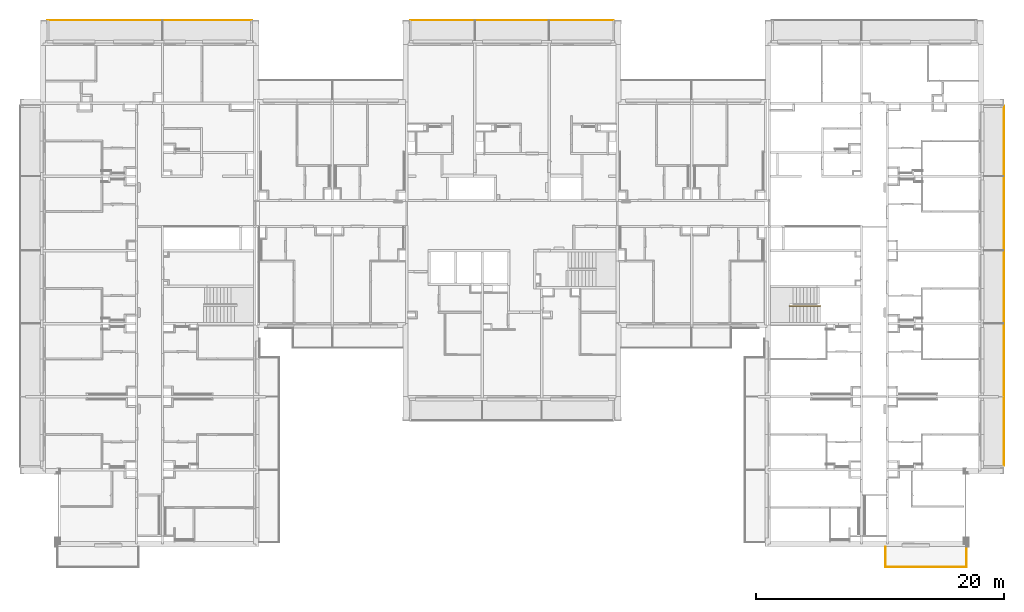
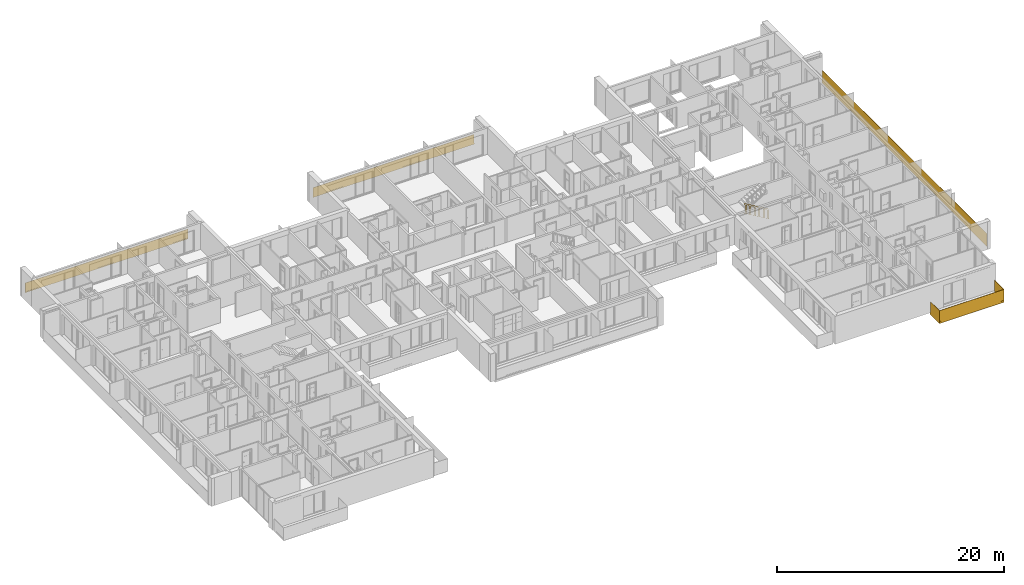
# One storey, part 8 of 66: 5 railings.
"""IFC2X3 building model written with IfcOpenShell, lengths in millimetres."""

from ifc_helpers import new_model, entity, si_unit, converted_unit, derived_unit, money_unit, direction, frame, origin_with_axes, place, context, subcontext, project, spatial, faceted_brep, material, material_list, type_object, element, save


model = new_model("IFC2X3")

# Units and contexts
model_context = context("Model", 3, precision=0.01, world=origin_with_axes(), true_north=direction((0.34421633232, 0.938890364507)))
body_context = subcontext(model_context, "Body", "Model", "MODEL_VIEW")
ifc_project = project(units=[si_unit("LENGTHUNIT", "METRE", prefix="MILLI"), si_unit("AREAUNIT", "SQUARE_METRE"), si_unit("VOLUMEUNIT", "CUBIC_METRE"), converted_unit("PLANEANGLEUNIT", "DEGREE", entity("IfcPlaneAngleMeasure", 0.0174532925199), si_unit("PLANEANGLEUNIT", "RADIAN"), dimensions=[0, 0, 0, 0, 0, 0, 0]), si_unit("SOLIDANGLEUNIT", "STERADIAN"), money_unit("USD"), converted_unit("TIMEUNIT", "Year", entity("IfcTimeMeasure", 31556926.0), si_unit("TIMEUNIT", "SECOND"), dimensions=[0, 0, 1, 0, 0, 0, 0]), si_unit("MASSUNIT", "GRAM", prefix="KILO"), si_unit("THERMODYNAMICTEMPERATUREUNIT", "DEGREE_CELSIUS"), si_unit("LUMINOUSINTENSITYUNIT", "LUMEN"), si_unit("ENERGYUNIT", "JOULE", prefix="MEGA"), derived_unit("THERMALCONDUCTANCEUNIT", [(si_unit("POWERUNIT", "WATT"), 1), (si_unit("LENGTHUNIT", "METRE"), -1), (si_unit("THERMODYNAMICTEMPERATUREUNIT", "KELVIN"), -1)]), derived_unit("SPECIFICHEATCAPACITYUNIT", [(si_unit("ENERGYUNIT", "JOULE"), 1), (si_unit("MASSUNIT", "GRAM", prefix="KILO"), -1), (si_unit("THERMODYNAMICTEMPERATUREUNIT", "KELVIN"), -1)]), derived_unit("MASSDENSITYUNIT", [(si_unit("MASSUNIT", "GRAM", prefix="KILO"), 1), (si_unit("VOLUMEUNIT", "CUBIC_METRE"), -1)])], contexts=[model_context])

# Site, building, storey
site_placement = place(None, origin_with_axes())
site = spatial("IfcSite", under=ifc_project, at=site_placement, Name="USTRONIE MORSKIE", CompositionType="ELEMENT")
building_placement = place(site_placement, origin_with_axes())
building = spatial("IfcBuilding", under=site, at=building_placement, Name="Budynek", CompositionType="ELEMENT")
storey_placement = place(building_placement, frame((0.0, 0.0, 10000.0), z_axis=(0.0, 0.0, 1.0), x_axis=(1.0, 0.0, 0.0)))
storey = spatial("IfcBuildingStorey", under=building, at=storey_placement, Name="PIĘTRO 3", CompositionType="ELEMENT", Elevation=10000.0)

# Railings
ifc_material_1 = material(Name="Szkło struktualne")
ifc_material_2 = material(Name="Profile aluminiowe")
ifc_material_list_1 = material_list([ifc_material_1, ifc_material_2])
railing_type = type_object("IfcRailingType", Name="Typ balustrady", PredefinedType="NOTDEFINED")
railing_1_placement = place(storey_placement, frame((425717.920919, 745301.199036, -200.0), z_axis=(0.0, 0.0, 1.0), x_axis=(1.0, 0.0, 0.0)))
element("IfcRailing", 1, at=railing_1_placement, inside=storey, type_object=railing_type, material=ifc_material_list_1, Name="BL1", PredefinedType="NOTDEFINED", context=body_context, shape_type="Brep", body=[
    faceted_brep([(1810.0, -29870.0, -100.0), (1810.0, -820.0, -100.0), (1810.0, -820.0, 1250.0), (1810.0, -29870.0, 1250.0), (1790.0, -820.0, -100.0), (1790.0, -29870.0, -100.0), (1790.0, -820.0, 1250.0), (1790.0, -29870.0, 1250.0)], [[[0, 1, 2, 3]], [[4, 1, 0, 5]], [[6, 2, 1, 4]], [[3, 2, 6, 7]], [[0, 3, 7, 5]], [[6, 4, 5, 7]]]),
    faceted_brep([(1785.0, -29870.0, -5.0), (1785.0, -820.0, -5.0), (1785.0, -820.0, -105.0), (1785.0, -29870.0, -105.0), (1790.0, -29870.0, -5.0), (1790.0, -820.0, -5.0), (1790.0, -820.0, -100.0), (1810.0, -820.0, -100.0), (1810.0, -820.0, -5.0), (1815.0, -820.0, -5.0), (1815.0, -820.0, -105.0), (1815.0, -29870.0, -105.0), (1815.0, -29870.0, -5.0), (1810.0, -29870.0, -5.0), (1810.0, -29870.0, -100.0), (1790.0, -29870.0, -100.0)], [[[0, 1, 2, 3]], [[1, 0, 4, 5]], [[6, 7, 8, 9, 10, 2, 1, 5]], [[10, 11, 3, 2]], [[11, 12, 13, 14, 15, 4, 0, 3]], [[15, 6, 5, 4]], [[7, 6, 15, 14]], [[8, 7, 14, 13]], [[9, 8, 13, 12]], [[11, 10, 9, 12]]]),
])
railing_2_placement = place(storey_placement, frame((366747.920919, 751396.199036, 30.0), z_axis=(0.0, 0.0, 1.0), x_axis=(-1.0, 0.0, 0.0)))
element("IfcRailing", 2, at=railing_2_placement, inside=storey, type_object=railing_type, material=ifc_material_list_1, Name="BL1", PredefinedType="NOTDEFINED", context=body_context, shape_type="Brep", body=[
    faceted_brep([(16460.0, 9.99999999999, -100.0), (-100.0, 9.99999999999, -100.0), (-100.0, 9.99999999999, 950.0), (16460.0, 9.99999999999, 950.0), (-100.0, -9.99999999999, -100.0), (16460.0, -9.99999999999, -100.0), (-100.0, -9.99999999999, 950.0), (16460.0, -9.99999999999, 950.0)], [[[0, 1, 2, 3]], [[4, 1, 0, 5]], [[6, 2, 1, 4]], [[3, 2, 6, 7]], [[0, 3, 7, 5]], [[6, 4, 5, 7]]]),
    faceted_brep([(16460.0, -15.0, -5.0), (-100.0, -15.0, -5.0), (-100.0, -15.0, -105.0), (16460.0, -15.0, -105.0), (16460.0, -9.99999999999, -5.0), (-100.0, -9.99999999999, -5.0), (-100.0, -9.99999999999, -100.0), (-100.0, 9.99999999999, -100.0), (-100.0, 9.99999999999, -5.0), (-100.0, 15.0, -5.0), (-100.0, 15.0, -105.0), (16460.0, 15.0, -105.0), (16460.0, 15.0, -5.0), (16460.0, 9.99999999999, -5.0), (16460.0, 9.99999999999, -100.0), (16460.0, -9.99999999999, -100.0)], [[[0, 1, 2, 3]], [[1, 0, 4, 5]], [[6, 7, 8, 9, 10, 2, 1, 5]], [[10, 11, 3, 2]], [[11, 12, 13, 14, 15, 4, 0, 3]], [[15, 6, 5, 4]], [[7, 6, 15, 14]], [[8, 7, 14, 13]], [[9, 8, 13, 12]], [[11, 10, 9, 12]]]),
])
railing_3_placement = place(storey_placement, frame((379232.916848, 749626.184759, 30.0), z_axis=(0.0, 0.0, 1.0), x_axis=(1.0, 0.0, 0.0)))
element("IfcRailing", 3, at=railing_3_placement, inside=storey, type_object=railing_type, material=ifc_material_list_1, Name="BL1", PredefinedType="NOTDEFINED", context=body_context, shape_type="Brep", body=[
    faceted_brep([(16800.0006065, 1780.0, -100.0), (370.001001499, 1779.86177895, -100.0), (370.001001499, 1779.86177895, 950.0), (16800.0006065, 1780.0, 950.0), (370.001169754, 1759.86177895, -100.0), (16800.0007747, 1760.0, -100.0), (370.001169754, 1759.86177895, 950.0), (16800.0007747, 1760.0, 950.0)], [[[0, 1, 2, 3]], [[4, 1, 0, 5]], [[6, 2, 1, 4]], [[3, 2, 6, 7]], [[0, 3, 7, 5]], [[6, 4, 5, 7]]]),
    faceted_brep([(16800.0008168, 1755.0, -5.0), (370.001211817, 1754.86177895, -5.0), (370.001211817, 1754.86177895, -105.0), (16800.0008168, 1755.0, -105.0), (16800.0007747, 1760.0, -5.0), (370.001169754, 1759.86177895, -5.0), (370.001169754, 1759.86177895, -100.0), (370.001001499, 1779.86177895, -100.0), (370.001001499, 1779.86177895, -5.0), (370.000959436, 1784.86177895, -5.0), (370.000959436, 1784.86177895, -105.0), (16800.0005644, 1785.0, -105.0), (16800.0005644, 1785.0, -5.0), (16800.0006065, 1780.0, -5.0), (16800.0006065, 1780.0, -100.0), (16800.0007747, 1760.0, -100.0)], [[[0, 1, 2, 3]], [[1, 0, 4, 5]], [[6, 7, 8, 9, 10, 2, 1, 5]], [[10, 11, 3, 2]], [[11, 12, 13, 14, 15, 4, 0, 3]], [[15, 6, 5, 4]], [[7, 6, 15, 14]], [[8, 7, 14, 13]], [[9, 8, 13, 12]], [[11, 10, 9, 12]]]),
])
ifc_material_list_2 = material_list([ifc_material_1, ifc_material_2, ifc_material_1, ifc_material_2, ifc_material_1, ifc_material_2])
railing_4_placement = place(storey_placement, frame((418017.920919, 708891.199036, 0.0), z_axis=(0.0, 0.0, 1.0), x_axis=(-1.0, 0.0, 0.0)))
element("IfcRailing", 4, at=railing_4_placement, inside=storey, type_object=railing_type, material=ifc_material_list_2, Name="BL1", PredefinedType="NOTDEFINED", context=body_context, shape_type="Brep", body=[
    faceted_brep([(40.0000002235, 19.9999996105, -300.00000039), (40.0000002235, 19.9999996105, 1069.99999972), (40.0000002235, 1629.99999995, 1069.99999972), (40.0000002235, 1629.99999995, -300.00000039), (59.9999997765, 19.9999996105, 1069.99999972), (59.9999997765, 19.9999996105, -300.00000039), (59.9999997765, 1649.9999995, 1069.99999972), (59.9999997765, 1649.9999995, -300.00000039)], [[[0, 1, 2, 3]], [[4, 1, 0, 5]], [[2, 1, 4, 6]], [[3, 2, 6, 7]], [[5, 0, 3, 7]], [[6, 4, 5, 7]]]),
    faceted_brep([(65.0, 1640.0, -105.0), (65.0, 20.0, -105.0), (65.0, 20.0, -305.0), (65.0, 1640.0, -305.0), (60.0, 1640.0, -105.0), (60.0, 20.0, -105.0), (60.0, 20.0, -300.0), (40.0, 20.0, -300.0), (40.0, 20.0, -105.0), (35.0, 20.0, -105.0), (35.0, 20.0, -305.0), (35.0, 1640.0, -305.0), (35.0, 1640.0, -105.0), (40.0, 1640.0, -105.0), (40.0, 1640.0, -300.0), (60.0, 1640.0, -300.0)], [[[0, 1, 2, 3]], [[1, 0, 4, 5]], [[6, 7, 8, 9, 10, 2, 1, 5]], [[10, 11, 3, 2]], [[11, 12, 13, 14, 15, 4, 0, 3]], [[15, 6, 5, 4]], [[7, 6, 15, 14]], [[8, 7, 14, 13]], [[9, 8, 13, 12]], [[11, 10, 9, 12]]]),
    faceted_brep([(40.000000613, 1630.00000022, -300.00000039), (40.000000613, 1630.00000022, 1069.99999972), (-6490.00000058, 1630.00000022, 1069.99999972), (-6490.00000058, 1630.00000022, -300.00000039), (60.000000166, 1649.99999978, 1069.99999972), (60.000000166, 1649.99999978, -300.00000039), (-6510.00000013, 1649.99999978, 1069.99999972), (-6510.00000013, 1649.99999978, -300.00000039)], [[[0, 1, 2, 3]], [[4, 1, 0, 5]], [[2, 1, 4, 6]], [[3, 2, 6, 7]], [[5, 0, 3, 7]], [[6, 4, 5, 7]]]),
    faceted_brep([(-6500.0, 1655.0, -105.0), (50.0, 1655.0, -105.0), (50.0, 1655.0, -305.0), (-6500.0, 1655.0, -305.0), (-6500.0, 1650.0, -105.0), (50.0, 1650.0, -105.0), (50.0, 1650.0, -300.0), (50.0, 1630.0, -300.0), (50.0, 1630.0, -105.0), (50.0, 1625.0, -105.0), (50.0, 1625.0, -305.0), (-6500.0, 1625.0, -305.0), (-6500.0, 1625.0, -105.0), (-6500.0, 1630.0, -105.0), (-6500.0, 1630.0, -300.0), (-6500.0, 1650.0, -300.0)], [[[0, 1, 2, 3]], [[1, 0, 4, 5]], [[6, 7, 8, 9, 10, 2, 1, 5]], [[10, 11, 3, 2]], [[11, 12, 13, 14, 15, 4, 0, 3]], [[15, 6, 5, 4]], [[7, 6, 15, 14]], [[8, 7, 14, 13]], [[9, 8, 13, 12]], [[11, 10, 9, 12]]]),
    faceted_brep([(-6490.00000022, 1630.00000061, -300.00000039), (-6490.00000022, 1630.00000061, 1069.99999972), (-6490.00000022, 20.0000002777, 1069.99999972), (-6490.00000022, 20.0000002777, -300.00000039), (-6509.99999978, 1650.00000017, 1069.99999972), (-6509.99999978, 1650.00000017, -300.00000039), (-6509.99999978, 20.0000002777, 1069.99999972), (-6509.99999978, 20.0000002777, -300.00000039)], [[[0, 1, 2, 3]], [[4, 1, 0, 5]], [[2, 1, 4, 6]], [[3, 2, 6, 7]], [[5, 0, 3, 7]], [[6, 4, 5, 7]]]),
    faceted_brep([(-6515.0, 20.0, -105.0), (-6515.0, 1640.0, -105.0), (-6515.0, 1640.0, -305.0), (-6515.0, 20.0, -305.0), (-6510.0, 20.0, -105.0), (-6510.0, 1640.0, -105.0), (-6510.0, 1640.0, -300.0), (-6490.0, 1640.0, -300.0), (-6490.0, 1640.0, -105.0), (-6485.0, 1640.0, -105.0), (-6485.0, 1640.0, -305.0), (-6485.0, 20.0, -305.0), (-6485.0, 20.0, -105.0), (-6490.0, 20.0, -105.0), (-6490.0, 20.0, -300.0), (-6510.0, 20.0, -300.0)], [[[0, 1, 2, 3]], [[1, 0, 4, 5]], [[6, 7, 8, 9, 10, 2, 1, 5]], [[10, 11, 3, 2]], [[11, 12, 13, 14, 15, 4, 0, 3]], [[15, 6, 5, 4]], [[7, 6, 15, 14]], [[8, 7, 14, 13]], [[9, 8, 13, 12]], [[11, 10, 9, 12]]]),
])
ifc_material_3 = material(Name="Stal konstrukcyjna")
ifc_material_4 = material(Name="Stal nierdzewna")
ifc_material_list_3 = material_list([ifc_material_3, ifc_material_3, ifc_material_4, ifc_material_4, ifc_material_4, ifc_material_3, ifc_material_3, ifc_material_3, ifc_material_3, ifc_material_3, ifc_material_3, ifc_material_3, ifc_material_3, ifc_material_3, ifc_material_3, ifc_material_3, ifc_material_3, ifc_material_3, ifc_material_3, ifc_material_3, ifc_material_3, ifc_material_3, ifc_material_3, ifc_material_3, ifc_material_3, ifc_material_3])
railing_5_placement = place(storey_placement, frame((412739.618312, 728301.198914, 166.666666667), z_axis=(0.0, 0.0, 1.0), x_axis=(1.0, 0.0, 0.0)))
element("IfcRailing", 5, at=railing_5_placement, inside=storey, type_object=railing_type, material=ifc_material_list_3, Name="BL1", PredefinedType="NOTDEFINED", context=body_context, shape_type="Brep", body=[
    faceted_brep([(-9.99999999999, 45.0, -144.051724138), (-9.99999999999, 25.0, -144.051724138), (-9.99999999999, 25.0, 755.948275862), (-9.99999999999, 45.0, 755.948275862), (9.99999999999, 45.0, -155.948275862), (9.99999999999, 25.0, -155.948275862), (-5.0, 40.0, -147.025862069), (-5.0, 30.0, -147.025862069), (5.0, 30.0, -152.974137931), (5.0, 40.0, -152.974137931), (9.99999999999, 25.0, 744.051724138), (9.99999999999, 45.0, 744.051724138), (-5.0, 40.0, 752.974137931), (5.0, 40.0, 747.025862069), (5.0, 30.0, 747.025862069), (-5.0, 30.0, 752.974137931)], [[[0, 1, 2, 3]], [[0, 4, 5, 1], [6, 7, 8, 9]], [[1, 5, 10, 2]], [[3, 2, 10, 11], [12, 13, 14, 15]], [[4, 0, 3, 11]], [[5, 4, 11, 10]], [[7, 6, 12, 15]], [[8, 7, 15, 14]], [[9, 8, 14, 13]], [[6, 9, 13, 12]]]),
    faceted_brep([(-2531.73913043, 45.0, 1355.94827586), (-2531.73913043, 25.0, 1355.94827586), (-2531.73913043, 25.0, 2255.94827586), (-2531.73913043, 45.0, 2255.94827586), (-2511.73913043, 45.0, 1344.05172414), (-2511.73913043, 25.0, 1344.05172414), (-2526.73913043, 40.0, 1352.97413793), (-2526.73913043, 30.0, 1352.97413793), (-2516.73913043, 30.0, 1347.02586207), (-2516.73913043, 40.0, 1347.02586207), (-2511.73913043, 25.0, 2244.05172414), (-2511.73913043, 45.0, 2244.05172414), (-2526.73913043, 40.0, 2252.97413793), (-2516.73913043, 40.0, 2247.02586207), (-2516.73913043, 30.0, 2247.02586207), (-2526.73913043, 30.0, 2252.97413793)], [[[0, 1, 2, 3]], [[0, 4, 5, 1], [6, 7, 8, 9]], [[1, 5, 10, 2]], [[3, 2, 10, 11], [12, 13, 14, 15]], [[4, 0, 3, 11]], [[5, 4, 11, 10]], [[7, 6, 12, 15]], [[8, 7, 15, 14]], [[9, 8, 14, 13]], [[6, 9, 13, 12]]]),
    faceted_brep([(0.0, 59.9999999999, 900.0), (-12.7805831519, 59.9999999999, 878.513802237), (-2534.51971359, 59.9999999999, 2378.51380224), (-2521.73913043, 59.9999999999, 2400.0), (0.0, 9.99999999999, 900.0), (-12.7805831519, 9.99999999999, 878.513802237), (-12.7805831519, 25.0, 878.513802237), (-10.2244665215, 25.0, 882.81104179), (-10.2244665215, 45.0, 882.81104179), (-12.7805831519, 45.0, 878.513802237), (-2534.51971359, 45.0, 2378.51380224), (-2531.96359696, 45.0, 2382.81104179), (-2531.96359696, 25.0, 2382.81104179), (-2534.51971359, 25.0, 2378.51380224), (-2534.51971359, 9.99999999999, 2378.51380224), (-2521.73913043, 9.99999999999, 2400.0)], [[[0, 1, 2, 3]], [[0, 4, 5, 6, 7, 8, 9, 1]], [[1, 9, 10, 2]], [[3, 2, 10, 11, 12, 13, 14, 15]], [[4, 0, 3, 15]], [[5, 4, 15, 14]], [[6, 5, 14, 13]], [[7, 6, 13, 12]], [[8, 7, 12, 11]], [[9, 8, 11, 10]]]),
    faceted_brep([(-12.7805831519, 45.0, 878.513802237), (-12.7805831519, 25.0, 878.513802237), (-2534.51971359, 25.0, 2378.51380224), (-2534.51971359, 45.0, 2378.51380224), (-10.2244665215, 45.0, 882.81104179), (-10.2244665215, 25.0, 882.81104179), (-2531.96359696, 25.0, 2382.81104179), (-2531.96359696, 45.0, 2382.81104179)], [[[0, 1, 2, 3]], [[0, 4, 5, 1]], [[1, 5, 6, 2]], [[3, 2, 6, 7]], [[4, 0, 3, 7]], [[5, 4, 7, 6]]]),
    faceted_brep([(-45.4723955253, 45.0, 776.472725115), (-45.4723955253, 25.0, 776.472725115), (-45.4723955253, 25.0, 897.95979408), (-45.4723955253, 45.0, 897.95979408), (-40.4723955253, 45.0, 776.472725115), (-40.4723955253, 25.0, 776.472725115), (-40.4723955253, 25.0, 896.472725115), (-42.9723955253, 25.0, 897.95979408), (-42.9723955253, 45.0, 897.95979408), (-40.4723955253, 45.0, 896.472725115)], [[[0, 1, 2, 3]], [[0, 4, 5, 1]], [[1, 5, 6, 7, 2]], [[3, 2, 7, 8]], [[4, 0, 3, 8, 9]], [[5, 4, 9, 6]], [[7, 6, 9, 8]]]),
    faceted_brep([(-2481.26673491, 45.0, 2225.35039251), (-2481.26673491, 25.0, 2225.35039251), (-2481.26673491, 25.0, 2346.83746147), (-2481.26673491, 45.0, 2346.83746147), (-2476.26673491, 45.0, 2225.35039251), (-2476.26673491, 25.0, 2225.35039251), (-2476.26673491, 25.0, 2345.35039251), (-2478.76673491, 25.0, 2346.83746147), (-2478.76673491, 45.0, 2346.83746147), (-2476.26673491, 45.0, 2345.35039251)], [[[0, 1, 2, 3]], [[0, 4, 5, 1]], [[1, 5, 6, 7, 2]], [[3, 2, 7, 8]], [[4, 0, 3, 8, 9]], [[5, 4, 9, 6]], [[7, 6, 9, 8]]]),
    faceted_brep([(0.0, 54.9999999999, 750.0), (-2.55611663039, 54.9999999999, 745.702760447), (-2524.29524707, 54.9999999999, 2245.70276045), (-2521.73913043, 54.9999999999, 2250.0), (0.0, 15.0, 750.0), (-2.55611663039, 15.0, 745.702760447), (-2524.29524707, 15.0, 2245.70276045), (-2521.73913043, 15.0, 2250.0)], [[[0, 1, 2, 3]], [[0, 4, 5, 1]], [[1, 5, 6, 2]], [[3, 2, 6, 7]], [[4, 0, 3, 7]], [[5, 4, 7, 6]]]),
    faceted_brep([(1.27805831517, 54.9999999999, -157.851380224), (-1.27805831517, 54.9999999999, -162.148619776), (-2523.01718875, 54.9999999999, 1337.85138022), (-2520.46107212, 54.9999999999, 1342.14861978), (1.27805831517, 15.0, -157.851380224), (-1.27805831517, 15.0, -162.148619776), (-2523.01718875, 15.0, 1337.85138022), (-2520.46107212, 15.0, 1342.14861978)], [[[0, 1, 2, 3]], [[0, 4, 5, 1]], [[1, 5, 6, 2]], [[3, 2, 6, 7]], [[4, 0, 3, 7]], [[5, 4, 7, 6]]]),
    faceted_brep([(-117.124505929, 47.5, -85.3311128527), (-117.124505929, 22.4999999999, -85.3311128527), (-117.124505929, 22.4999999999, 814.668887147), (-117.124505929, 47.5, 814.668887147), (-112.124505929, 47.5, -88.3052507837), (-112.124505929, 22.4999999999, -88.3052507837), (-112.124505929, 22.4999999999, 811.694749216), (-112.124505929, 47.5, 811.694749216)], [[[0, 1, 2, 3]], [[0, 4, 5, 1]], [[1, 5, 6, 2]], [[3, 2, 6, 7]], [[4, 0, 3, 7]], [[5, 4, 7, 6]]]),
    faceted_brep([(-231.749011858, 47.5, -17.1492946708), (-231.749011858, 22.4999999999, -17.1492946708), (-231.749011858, 22.4999999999, 882.850705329), (-231.749011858, 47.5, 882.850705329), (-226.749011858, 47.5, -20.1234326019), (-226.749011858, 22.4999999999, -20.1234326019), (-226.749011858, 22.4999999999, 879.876567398), (-226.749011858, 47.5, 879.876567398)], [[[0, 1, 2, 3]], [[0, 4, 5, 1]], [[1, 5, 6, 2]], [[3, 2, 6, 7]], [[4, 0, 3, 7]], [[5, 4, 7, 6]]]),
    faceted_brep([(-346.373517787, 47.5, 51.032523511), (-346.373517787, 22.4999999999, 51.032523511), (-346.373517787, 22.4999999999, 951.032523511), (-346.373517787, 47.5, 951.032523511), (-341.373517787, 47.5, 48.0583855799), (-341.373517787, 22.4999999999, 48.0583855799), (-341.373517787, 22.4999999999, 948.05838558), (-341.373517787, 47.5, 948.05838558)], [[[0, 1, 2, 3]], [[0, 4, 5, 1]], [[1, 5, 6, 2]], [[3, 2, 6, 7]], [[4, 0, 3, 7]], [[5, 4, 7, 6]]]),
    faceted_brep([(-460.998023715, 47.5, 119.214341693), (-460.998023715, 22.4999999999, 119.214341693), (-460.998023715, 22.4999999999, 1019.21434169), (-460.998023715, 47.5, 1019.21434169), (-455.998023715, 47.5, 116.240203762), (-455.998023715, 22.4999999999, 116.240203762), (-455.998023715, 22.4999999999, 1016.24020376), (-455.998023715, 47.5, 1016.24020376)], [[[0, 1, 2, 3]], [[0, 4, 5, 1]], [[1, 5, 6, 2]], [[3, 2, 6, 7]], [[4, 0, 3, 7]], [[5, 4, 7, 6]]]),
    faceted_brep([(-575.622529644, 47.5, 187.396159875), (-575.622529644, 22.4999999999, 187.396159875), (-575.622529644, 22.4999999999, 1087.39615987), (-575.622529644, 47.5, 1087.39615987), (-570.622529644, 47.5, 184.422021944), (-570.622529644, 22.4999999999, 184.422021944), (-570.622529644, 22.4999999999, 1084.42202194), (-570.622529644, 47.5, 1084.42202194)], [[[0, 1, 2, 3]], [[0, 4, 5, 1]], [[1, 5, 6, 2]], [[3, 2, 6, 7]], [[4, 0, 3, 7]], [[5, 4, 7, 6]]]),
    faceted_brep([(-690.247035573, 47.5, 255.577978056), (-690.247035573, 22.4999999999, 255.577978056), (-690.247035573, 22.4999999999, 1155.57797806), (-690.247035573, 47.5, 1155.57797806), (-685.247035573, 47.5, 252.603840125), (-685.247035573, 22.4999999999, 252.603840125), (-685.247035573, 22.4999999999, 1152.60384013), (-685.247035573, 47.5, 1152.60384013)], [[[0, 1, 2, 3]], [[0, 4, 5, 1]], [[1, 5, 6, 2]], [[3, 2, 6, 7]], [[4, 0, 3, 7]], [[5, 4, 7, 6]]]),
    faceted_brep([(-804.871541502, 47.5, 323.759796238), (-804.871541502, 22.4999999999, 323.759796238), (-804.871541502, 22.4999999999, 1223.75979624), (-804.871541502, 47.5, 1223.75979624), (-799.871541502, 47.5, 320.785658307), (-799.871541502, 22.4999999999, 320.785658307), (-799.871541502, 22.4999999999, 1220.78565831), (-799.871541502, 47.5, 1220.78565831)], [[[0, 1, 2, 3]], [[0, 4, 5, 1]], [[1, 5, 6, 2]], [[3, 2, 6, 7]], [[4, 0, 3, 7]], [[5, 4, 7, 6]]]),
    faceted_brep([(-919.496047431, 47.5, 391.94161442), (-919.496047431, 22.4999999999, 391.94161442), (-919.496047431, 22.4999999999, 1291.94161442), (-919.496047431, 47.5, 1291.94161442), (-914.496047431, 47.5, 388.967476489), (-914.496047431, 22.4999999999, 388.967476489), (-914.496047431, 22.4999999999, 1288.96747649), (-914.496047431, 47.5, 1288.96747649)], [[[0, 1, 2, 3]], [[0, 4, 5, 1]], [[1, 5, 6, 2]], [[3, 2, 6, 7]], [[4, 0, 3, 7]], [[5, 4, 7, 6]]]),
    faceted_brep([(-1034.12055336, 47.5, 460.123432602), (-1034.12055336, 22.4999999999, 460.123432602), (-1034.12055336, 22.4999999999, 1360.1234326), (-1034.12055336, 47.5, 1360.1234326), (-1029.12055336, 47.5, 457.149294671), (-1029.12055336, 22.4999999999, 457.149294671), (-1029.12055336, 22.4999999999, 1357.14929467), (-1029.12055336, 47.5, 1357.14929467)], [[[0, 1, 2, 3]], [[0, 4, 5, 1]], [[1, 5, 6, 2]], [[3, 2, 6, 7]], [[4, 0, 3, 7]], [[5, 4, 7, 6]]]),
    faceted_brep([(-1148.74505929, 47.5, 528.305250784), (-1148.74505929, 22.4999999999, 528.305250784), (-1148.74505929, 22.4999999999, 1428.30525078), (-1148.74505929, 47.5, 1428.30525078), (-1143.74505929, 47.5, 525.331112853), (-1143.74505929, 22.4999999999, 525.331112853), (-1143.74505929, 22.4999999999, 1425.33111285), (-1143.74505929, 47.5, 1425.33111285)], [[[0, 1, 2, 3]], [[0, 4, 5, 1]], [[1, 5, 6, 2]], [[3, 2, 6, 7]], [[4, 0, 3, 7]], [[5, 4, 7, 6]]]),
    faceted_brep([(-1263.36956522, 47.5, 596.487068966), (-1263.36956522, 22.4999999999, 596.487068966), (-1263.36956522, 22.4999999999, 1496.48706897), (-1263.36956522, 47.5, 1496.48706897), (-1258.36956522, 47.5, 593.512931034), (-1258.36956522, 22.4999999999, 593.512931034), (-1258.36956522, 22.4999999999, 1493.51293103), (-1258.36956522, 47.5, 1493.51293103)], [[[0, 1, 2, 3]], [[0, 4, 5, 1]], [[1, 5, 6, 2]], [[3, 2, 6, 7]], [[4, 0, 3, 7]], [[5, 4, 7, 6]]]),
    faceted_brep([(-1377.99407115, 47.5, 664.668887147), (-1377.99407115, 22.4999999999, 664.668887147), (-1377.99407115, 22.4999999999, 1564.66888715), (-1377.99407115, 47.5, 1564.66888715), (-1372.99407115, 47.5, 661.694749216), (-1372.99407115, 22.4999999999, 661.694749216), (-1372.99407115, 22.4999999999, 1561.69474922), (-1372.99407115, 47.5, 1561.69474922)], [[[0, 1, 2, 3]], [[0, 4, 5, 1]], [[1, 5, 6, 2]], [[3, 2, 6, 7]], [[4, 0, 3, 7]], [[5, 4, 7, 6]]]),
    faceted_brep([(-1492.61857708, 47.5, 732.850705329), (-1492.61857708, 22.4999999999, 732.850705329), (-1492.61857708, 22.4999999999, 1632.85070533), (-1492.61857708, 47.5, 1632.85070533), (-1487.61857708, 47.5, 729.876567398), (-1487.61857708, 22.4999999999, 729.876567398), (-1487.61857708, 22.4999999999, 1629.8765674), (-1487.61857708, 47.5, 1629.8765674)], [[[0, 1, 2, 3]], [[0, 4, 5, 1]], [[1, 5, 6, 2]], [[3, 2, 6, 7]], [[4, 0, 3, 7]], [[5, 4, 7, 6]]]),
    faceted_brep([(-1607.243083, 47.5, 801.032523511), (-1607.243083, 22.4999999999, 801.032523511), (-1607.243083, 22.4999999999, 1701.03252351), (-1607.243083, 47.5, 1701.03252351), (-1602.243083, 47.5, 798.05838558), (-1602.243083, 22.4999999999, 798.05838558), (-1602.243083, 22.4999999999, 1698.05838558), (-1602.243083, 47.5, 1698.05838558)], [[[0, 1, 2, 3]], [[0, 4, 5, 1]], [[1, 5, 6, 2]], [[3, 2, 6, 7]], [[4, 0, 3, 7]], [[5, 4, 7, 6]]]),
    faceted_brep([(-1721.86758893, 47.5, 869.214341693), (-1721.86758893, 22.4999999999, 869.214341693), (-1721.86758893, 22.4999999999, 1769.21434169), (-1721.86758893, 47.5, 1769.21434169), (-1716.86758893, 47.5, 866.240203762), (-1716.86758893, 22.4999999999, 866.240203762), (-1716.86758893, 22.4999999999, 1766.24020376), (-1716.86758893, 47.5, 1766.24020376)], [[[0, 1, 2, 3]], [[0, 4, 5, 1]], [[1, 5, 6, 2]], [[3, 2, 6, 7]], [[4, 0, 3, 7]], [[5, 4, 7, 6]]]),
    faceted_brep([(-1836.49209486, 47.5, 937.396159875), (-1836.49209486, 22.4999999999, 937.396159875), (-1836.49209486, 22.4999999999, 1837.39615987), (-1836.49209486, 47.5, 1837.39615987), (-1831.49209486, 47.5, 934.422021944), (-1831.49209486, 22.4999999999, 934.422021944), (-1831.49209486, 22.4999999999, 1834.42202194), (-1831.49209486, 47.5, 1834.42202194)], [[[0, 1, 2, 3]], [[0, 4, 5, 1]], [[1, 5, 6, 2]], [[3, 2, 6, 7]], [[4, 0, 3, 7]], [[5, 4, 7, 6]]]),
    faceted_brep([(-1951.11660079, 47.5, 1005.57797806), (-1951.11660079, 22.4999999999, 1005.57797806), (-1951.11660079, 22.4999999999, 1905.57797806), (-1951.11660079, 47.5, 1905.57797806), (-1946.11660079, 47.5, 1002.60384013), (-1946.11660079, 22.4999999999, 1002.60384013), (-1946.11660079, 22.4999999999, 1902.60384013), (-1946.11660079, 47.5, 1902.60384013)], [[[0, 1, 2, 3]], [[0, 4, 5, 1]], [[1, 5, 6, 2]], [[3, 2, 6, 7]], [[4, 0, 3, 7]], [[5, 4, 7, 6]]]),
    faceted_brep([(-2065.74110672, 47.5, 1073.75979624), (-2065.74110672, 22.4999999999, 1073.75979624), (-2065.74110672, 22.4999999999, 1973.75979624), (-2065.74110672, 47.5, 1973.75979624), (-2060.74110672, 47.5, 1070.78565831), (-2060.74110672, 22.4999999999, 1070.78565831), (-2060.74110672, 22.4999999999, 1970.78565831), (-2060.74110672, 47.5, 1970.78565831)], [[[0, 1, 2, 3]], [[0, 4, 5, 1]], [[1, 5, 6, 2]], [[3, 2, 6, 7]], [[4, 0, 3, 7]], [[5, 4, 7, 6]]]),
    faceted_brep([(-2180.36561265, 47.5, 1141.94161442), (-2180.36561265, 22.4999999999, 1141.94161442), (-2180.36561265, 22.4999999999, 2041.94161442), (-2180.36561265, 47.5, 2041.94161442), (-2175.36561265, 47.5, 1138.96747649), (-2175.36561265, 22.4999999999, 1138.96747649), (-2175.36561265, 22.4999999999, 2038.96747649), (-2175.36561265, 47.5, 2038.96747649)], [[[0, 1, 2, 3]], [[0, 4, 5, 1]], [[1, 5, 6, 2]], [[3, 2, 6, 7]], [[4, 0, 3, 7]], [[5, 4, 7, 6]]]),
    faceted_brep([(-2294.99011858, 47.5, 1210.1234326), (-2294.99011858, 22.4999999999, 1210.1234326), (-2294.99011858, 22.4999999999, 2110.1234326), (-2294.99011858, 47.5, 2110.1234326), (-2289.99011858, 47.5, 1207.14929467), (-2289.99011858, 22.4999999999, 1207.14929467), (-2289.99011858, 22.4999999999, 2107.14929467), (-2289.99011858, 47.5, 2107.14929467)], [[[0, 1, 2, 3]], [[0, 4, 5, 1]], [[1, 5, 6, 2]], [[3, 2, 6, 7]], [[4, 0, 3, 7]], [[5, 4, 7, 6]]]),
    faceted_brep([(-2409.61462451, 47.5, 1278.30525078), (-2409.61462451, 22.4999999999, 1278.30525078), (-2409.61462451, 22.4999999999, 2178.30525078), (-2409.61462451, 47.5, 2178.30525078), (-2404.61462451, 47.5, 1275.33111285), (-2404.61462451, 22.4999999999, 1275.33111285), (-2404.61462451, 22.4999999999, 2175.33111285), (-2404.61462451, 47.5, 2175.33111285)], [[[0, 1, 2, 3]], [[0, 4, 5, 1]], [[1, 5, 6, 2]], [[3, 2, 6, 7]], [[4, 0, 3, 7]], [[5, 4, 7, 6]]]),
])

save(model, "model.ifc")
